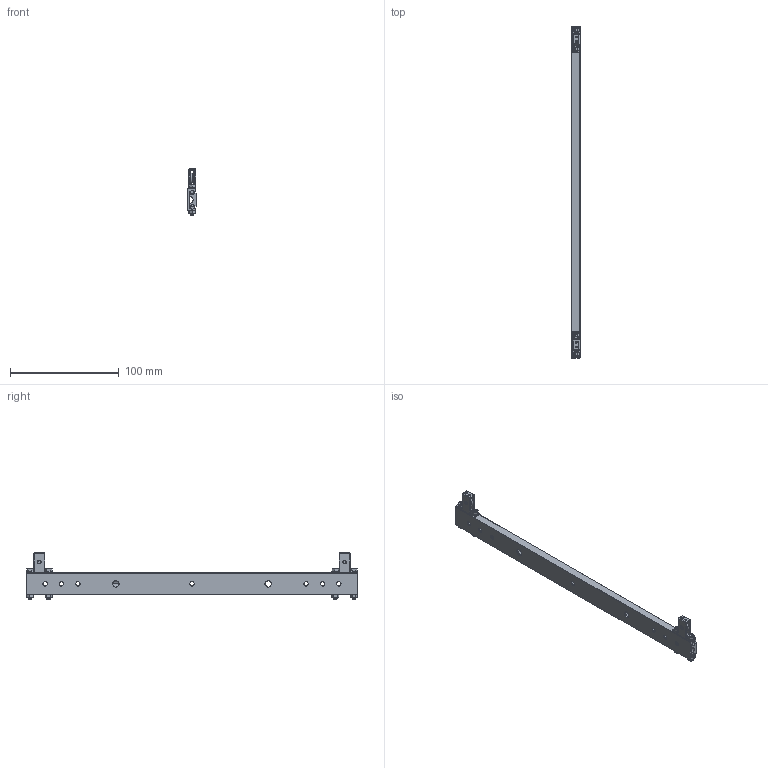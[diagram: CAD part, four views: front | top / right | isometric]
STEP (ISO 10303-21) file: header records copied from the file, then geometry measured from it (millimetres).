
FILE_DESCRIPTION (( 'STEP AP214' ), '1' );
FILE_NAME ('BL-300B.STEP', '2022-09-20T19:57:10', ( '' ), ( '' ), 'SwSTEP 2.0', 'SolidWorks 2022', '' );
FILE_SCHEMA (( 'AUTOMOTIVE_DESIGN' ));
Length unit declared in the file: millimetre
Products named in the file (10): M3.step; VPulley; NoHeadScrew; OuterSlide300B; BallBearing; M2; PulleyBracketV3; StopperScrew; InnerSlide300B; BL-300B
Assembly tree (56 placements, depth 2):
  BL-300B
    PulleyBracketV3  x2
    InnerSlide300B
    OuterSlide300B
    StopperScrew  x8
    BallBearing  x30
    VPulley  x2
    M3.step  x8
    NoHeadScrew  x2
    M2  x2
Bounding box: 8.18 x 304.8 x 42.55 mm (x, y, z)
Volume: 34766.4 mm3; surface area: 40281.4 mm2
Topology: 56 solids, 56 shells, 1462 faces, 3769 edges, 2337 vertices
Faces by surface type: cylinder 641, cone 306, plane 226, bspline 171, sphere 60, torus 58
Entity records: 50899 total; most frequent: CARTESIAN_POINT 37253, ORIENTED_EDGE 3258, DIRECTION 2153, EDGE_CURVE 1629, VERTEX_POINT 1044, AXIS2_PLACEMENT_3D 832, EDGE_LOOP 655, ADVANCED_FACE 594
